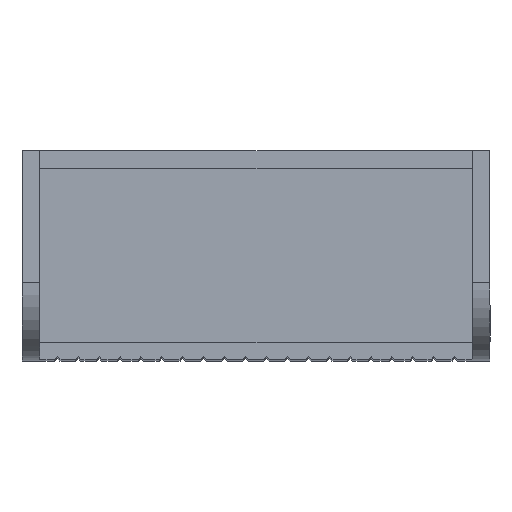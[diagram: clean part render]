
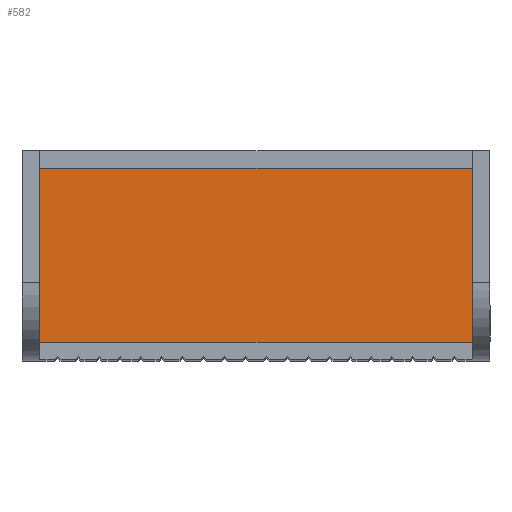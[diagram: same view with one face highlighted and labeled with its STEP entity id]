
A CAD part, top view. The second image highlights one B-rep face of the part: STEP entity #582.
In plain terms, the highlighted planar face has unit normal (0, 0, 1).
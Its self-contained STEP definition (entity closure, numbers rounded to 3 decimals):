
#582=ADVANCED_FACE('',(#818),#3563,.T.);
#818=FACE_OUTER_BOUND('',#1088,.T.);
#1088=EDGE_LOOP('',(#2152,#2153,#2154,#2155));
#2152=ORIENTED_EDGE('',*,*,#2717,.T.);
#2153=ORIENTED_EDGE('',*,*,#2718,.T.);
#2154=ORIENTED_EDGE('',*,*,#2719,.F.);
#2155=ORIENTED_EDGE('',*,*,#2715,.F.);
#2715=EDGE_CURVE('',#3410,#3411,#3039,.T.);
#2717=EDGE_CURVE('',#3410,#3412,#3041,.T.);
#2718=EDGE_CURVE('',#3412,#3413,#3042,.T.);
#2719=EDGE_CURVE('',#3411,#3413,#3043,.T.);
#3039=B_SPLINE_CURVE_WITH_KNOTS('',1,(#6128,#6129),.UNSPECIFIED.,.F.,.F.,
(2,2),(0.,174.),.UNSPECIFIED.);
#3041=B_SPLINE_CURVE_WITH_KNOTS('',1,(#6132,#6133),.UNSPECIFIED.,.F.,.F.,
(2,2),(409.,802.),.UNSPECIFIED.);
#3042=B_SPLINE_CURVE_WITH_KNOTS('',1,(#6134,#6135),.UNSPECIFIED.,.F.,.F.,
(2,2),(0.,174.),.UNSPECIFIED.);
#3043=B_SPLINE_CURVE_WITH_KNOTS('',1,(#6136,#6137),.UNSPECIFIED.,.F.,.F.,
(2,2),(409.,802.),.UNSPECIFIED.);
#3410=VERTEX_POINT('',#6106);
#3411=VERTEX_POINT('',#6107);
#3412=VERTEX_POINT('',#6108);
#3413=VERTEX_POINT('',#6109);
#3563=PLANE('',#3865);
#3865=AXIS2_PLACEMENT_3D('',#6095,#4082,$);
#4082=DIRECTION('',(0.,0.,1.));
#6095=CARTESIAN_POINT('',(899.14,150.,230.));
#6106=CARTESIAN_POINT('',(899.14,150.,230.));
#6107=CARTESIAN_POINT('',(899.14,-24.,230.));
#6108=CARTESIAN_POINT('',(506.14,150.,230.));
#6109=CARTESIAN_POINT('',(506.14,-24.,230.));
#6128=CARTESIAN_POINT('',(899.14,150.,230.));
#6129=CARTESIAN_POINT('',(899.14,-24.,230.));
#6132=CARTESIAN_POINT('',(899.14,150.,230.));
#6133=CARTESIAN_POINT('',(506.14,150.,230.));
#6134=CARTESIAN_POINT('',(506.14,150.,230.));
#6135=CARTESIAN_POINT('',(506.14,-24.,230.));
#6136=CARTESIAN_POINT('',(899.14,-24.,230.));
#6137=CARTESIAN_POINT('',(506.14,-24.,230.));
